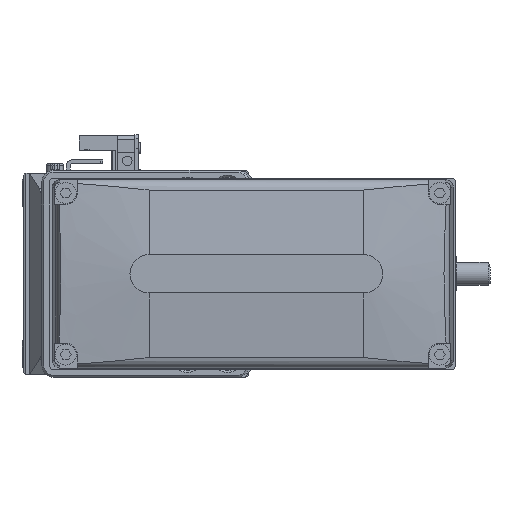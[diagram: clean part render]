
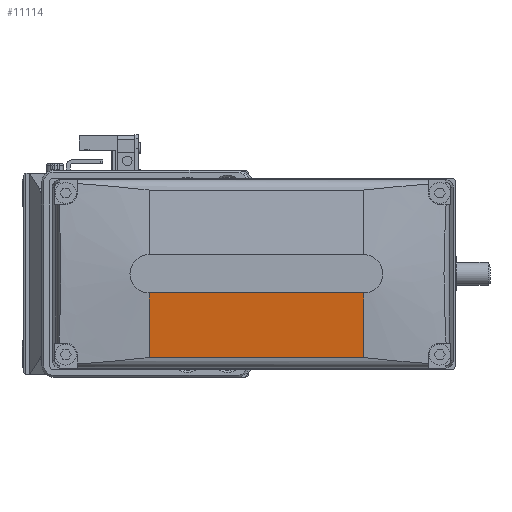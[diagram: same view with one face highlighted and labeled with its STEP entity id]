
A CAD part, left-side view. The second image highlights one B-rep face of the part: STEP entity #11114.
In plain terms, the highlighted planar face has unit normal (-0.996, 0, -0.087).
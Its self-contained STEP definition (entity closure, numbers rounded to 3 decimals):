
#4344 = VECTOR ( 'NONE', #4570, 1000. ) ;
#4431 = CARTESIAN_POINT ( 'NONE',  ( -50., 128., -5. ) ) ;
#4570 = DIRECTION ( 'NONE',  ( -0.087, 0., 0.996 ) ) ;
#4974 = ORIENTED_EDGE ( 'NONE', *, *, #5333, .F. ) ;
#5333 = EDGE_CURVE ( 'NONE', #7692, #25582, #30627, .T. ) ;
#7125 = CARTESIAN_POINT ( 'NONE',  ( -50., 28., -5. ) ) ;
#7692 = VERTEX_POINT ( 'NONE', #11100 ) ;
#7722 = DIRECTION ( 'NONE',  ( -0.087, 0., 0.996 ) ) ;
#9829 = VECTOR ( 'NONE', #31711, 1000. ) ;
#9996 = AXIS2_PLACEMENT_3D ( 'NONE', #4431, #24711, #7722 ) ;
#10381 = PLANE ( 'NONE',  #9996 ) ;
#10756 = LINE ( 'NONE', #35700, #25289 ) ;
#11100 = CARTESIAN_POINT ( 'NONE',  ( -48.525, -28., -21.861 ) ) ;
#11114 = ADVANCED_FACE ( 'NONE', ( #29522 ), #10381, .T. ) ;
#13680 = VERTEX_POINT ( 'NONE', #7125 ) ;
#14650 = ORIENTED_EDGE ( 'NONE', *, *, #15011, .F. ) ;
#15011 = EDGE_CURVE ( 'NONE', #25582, #13680, #19742, .T. ) ;
#15882 = CARTESIAN_POINT ( 'NONE',  ( -50., -28., -5. ) ) ;
#18823 = CARTESIAN_POINT ( 'NONE',  ( -48.525, 28., -21.861 ) ) ;
#19235 = CARTESIAN_POINT ( 'NONE',  ( 43606.406, 28., -499000. ) ) ;
#19742 = LINE ( 'NONE', #19235, #4344 ) ;
#20278 = EDGE_CURVE ( 'NONE', #32752, #13680, #25259, .T. ) ;
#20825 = ORIENTED_EDGE ( 'NONE', *, *, #35160, .F. ) ;
#21061 = DIRECTION ( 'NONE',  ( 0., 1., 0. ) ) ;
#24711 = DIRECTION ( 'NONE',  ( -0.996, 0., -0.087 ) ) ;
#25259 = LINE ( 'NONE', #28792, #9829 ) ;
#25289 = VECTOR ( 'NONE', #29869, 1000. ) ;
#25582 = VERTEX_POINT ( 'NONE', #18823 ) ;
#25845 = EDGE_LOOP ( 'NONE', ( #14650, #4974, #20825, #32800 ) ) ;
#28792 = CARTESIAN_POINT ( 'NONE',  ( -50., 128., -5. ) ) ;
#29522 = FACE_OUTER_BOUND ( 'NONE', #25845, .T. ) ;
#29869 = DIRECTION ( 'NONE',  ( 0.087, 0., -0.996 ) ) ;
#30049 = CARTESIAN_POINT ( 'NONE',  ( -48.525, 128., -21.861 ) ) ;
#30627 = LINE ( 'NONE', #30049, #36976 ) ;
#31711 = DIRECTION ( 'NONE',  ( 0., 1., 0. ) ) ;
#32752 = VERTEX_POINT ( 'NONE', #15882 ) ;
#32800 = ORIENTED_EDGE ( 'NONE', *, *, #20278, .T. ) ;
#35160 = EDGE_CURVE ( 'NONE', #32752, #7692, #10756, .T. ) ;
#35700 = CARTESIAN_POINT ( 'NONE',  ( 43606.406, -28., -499000. ) ) ;
#36976 = VECTOR ( 'NONE', #21061, 1000. ) ;
